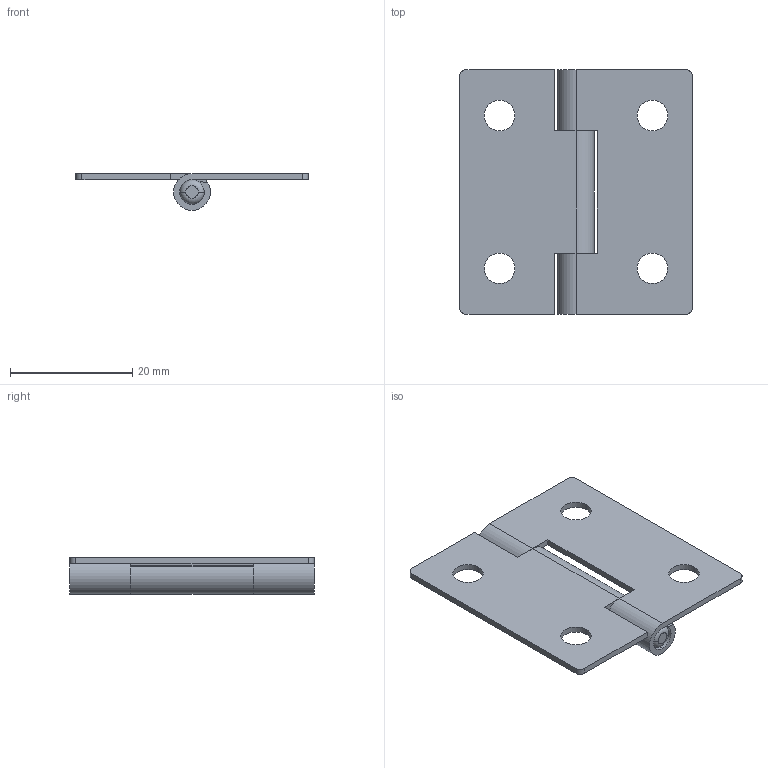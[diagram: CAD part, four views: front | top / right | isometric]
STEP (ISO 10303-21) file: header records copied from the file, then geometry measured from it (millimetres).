
FILE_DESCRIPTION (( 'STEP AP214' ), '1' );
FILE_NAME ('SK2-078-2.STEP', '2020-04-08T06:11:19', ( 'admin' ), ( 'Microsoft' ), 'SwSTEP 2.0', 'SolidWorks 2018', '' );
FILE_SCHEMA (( 'AUTOMOTIVE_DESIGN' ));
Length unit declared in the file: millimetre
Products named in the file (4): 2-078-2-F1; 2-078-2-F2; SK2-078-2; 2-078-2-F3
Assembly tree (3 placements, depth 2):
  SK2-078-2
    2-078-2-F2
    2-078-2-F1
    2-078-2-F3
Bounding box: 38 x 40 x 6 mm (x, y, z)
Volume: 2339.5 mm3; surface area: 4595.4 mm2
Topology: 3 solids, 3 shells, 55 faces, 143 edges, 94 vertices
Faces by surface type: cylinder 26, plane 25, torus 4
Entity records: 1875 total; most frequent: DIRECTION 325, CARTESIAN_POINT 298, ORIENTED_EDGE 286, EDGE_CURVE 143, AXIS2_PLACEMENT_3D 121, VERTEX_POINT 94, VECTOR 83, LINE 83
